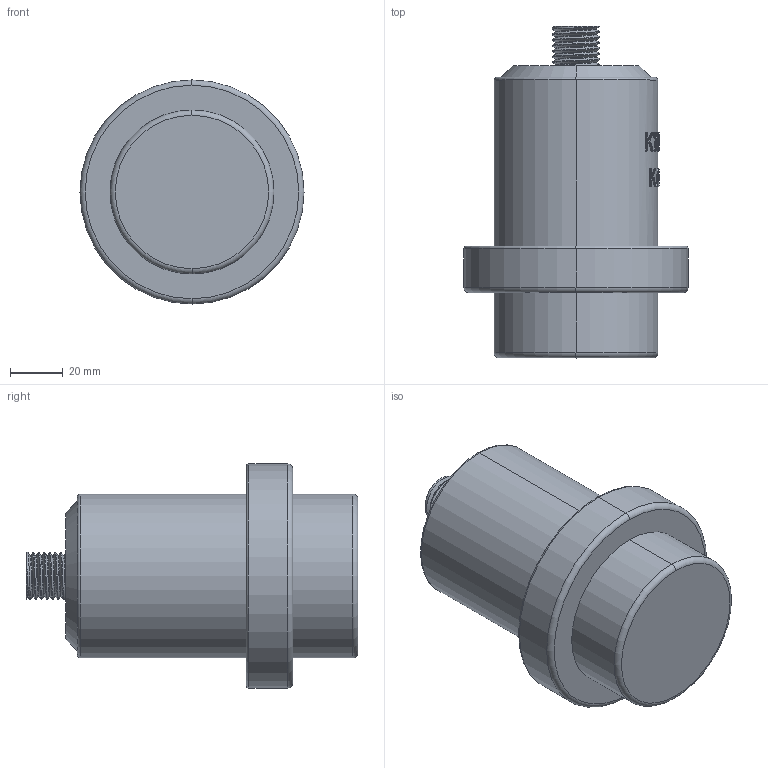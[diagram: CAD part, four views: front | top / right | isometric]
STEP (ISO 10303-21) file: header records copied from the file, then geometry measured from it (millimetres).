
FILE_DESCRIPTION((''),'2;1');
FILE_NAME('ASM0002_ASM','2025-12-30T09:06:18',('28740194'),(''),'CREO PARAMETRIC BY PTC INC, 2024063','CREO PARAMETRIC BY PTC INC, 2024063','');
FILE_SCHEMA(('CONFIG_CONTROL_DESIGN'));
Length unit declared in the file: millimetre
Products named in the file (3): KWD400; 11120; ASM0002_ASM
Assembly tree (2 placements, depth 2):
  ASM0002_ASM
    KWD400
    11120
Bounding box: 84.65 x 125.32 x 84.65 mm (x, y, z)
Volume: 3291.8 mm3; surface area: 34777.4 mm2
Topology: 1 solids, 4 shells, 350 faces, 980 edges, 653 vertices
Faces by surface type: bspline 296, cylinder 37, torus 8, plane 7, cone 2
Entity records: 16779 total; most frequent: CARTESIAN_POINT 9930, ORIENTED_EDGE 1932, EDGE_CURVE 978, B_SPLINE_CURVE_WITH_KNOTS 741, VERTEX_POINT 652, DIRECTION 491, EDGE_LOOP 369, FACE_OUTER_BOUND 350
